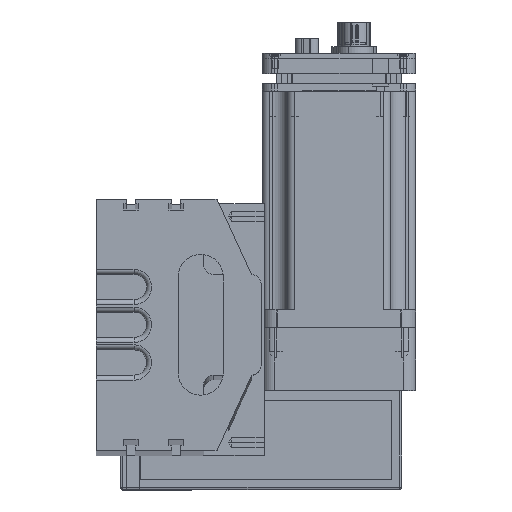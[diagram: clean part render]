
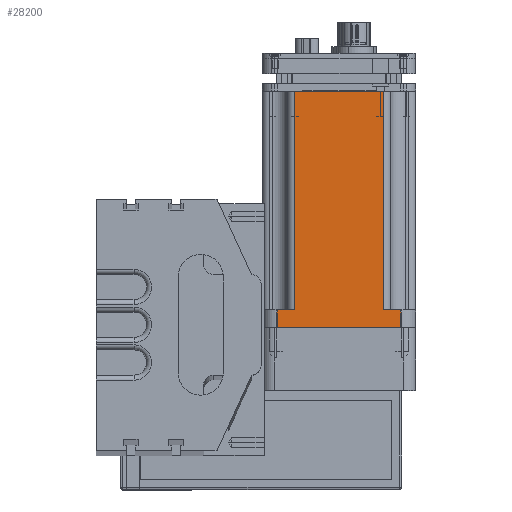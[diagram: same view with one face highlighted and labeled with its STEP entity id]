
A CAD part, top view. The second image highlights one B-rep face of the part: STEP entity #28200.
In plain terms, the highlighted planar face has unit normal (0, 0, 1).
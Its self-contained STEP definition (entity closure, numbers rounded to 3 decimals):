
#4890 = CARTESIAN_POINT ( 'NONE',  ( -17.5, 7., 30.5 ) ) ;
#4897 = DIRECTION ( 'NONE',  ( 1., 0., 0. ) ) ;
#4898 = VECTOR ( 'NONE', #4897, 1000. ) ;
#4899 = CARTESIAN_POINT ( 'NONE',  ( -24.5, 7., 30.5 ) ) ;
#4900 = LINE ( 'NONE', #4899, #4898 ) ;
#4928 = CARTESIAN_POINT ( 'NONE',  ( -24.5, 7., 30.5 ) ) ;
#4946 = CARTESIAN_POINT ( 'NONE',  ( -24.5, 0., 30.5 ) ) ;
#5287 = DIRECTION ( 'NONE',  ( 0., 1., 0. ) ) ;
#5288 = CARTESIAN_POINT ( 'NONE',  ( -24.5, 7., 30.5 ) ) ;
#5297 = LINE ( 'NONE', #5288, #5343 ) ;
#5343 = VECTOR ( 'NONE', #5287, 1000. ) ;
#5561 = CARTESIAN_POINT ( 'NONE',  ( -17.5, 94., 30.5 ) ) ;
#5566 = CARTESIAN_POINT ( 'NONE',  ( 24.5, 7., 30.5 ) ) ;
#5607 = FACE_OUTER_BOUND ( 'NONE', #28117, .T. ) ;
#5636 = CARTESIAN_POINT ( 'NONE',  ( 17.5, 7., 30.5 ) ) ;
#5638 = DIRECTION ( 'NONE',  ( -1., 0., 0. ) ) ;
#5639 = DIRECTION ( 'NONE',  ( 0., 0., -1. ) ) ;
#5640 = CARTESIAN_POINT ( 'NONE',  ( 17.5, 94., 30.5 ) ) ;
#5645 = AXIS2_PLACEMENT_3D ( 'NONE', #5651, #5639, #5638 ) ;
#5651 = CARTESIAN_POINT ( 'NONE',  ( -24.5, 7., 30.5 ) ) ;
#5652 = PLANE ( 'NONE',  #5645 ) ;
#5662 = LINE ( 'NONE', #5702, #5701 ) ;
#5671 = DIRECTION ( 'NONE',  ( 0., 1., 0. ) ) ;
#5672 = VECTOR ( 'NONE', #5671, 1000. ) ;
#5673 = CARTESIAN_POINT ( 'NONE',  ( -17.5, 7., 30.5 ) ) ;
#5674 = LINE ( 'NONE', #5673, #5672 ) ;
#5677 = DIRECTION ( 'NONE',  ( 1., 0., 0. ) ) ;
#5678 = VECTOR ( 'NONE', #5677, 1000. ) ;
#5679 = CARTESIAN_POINT ( 'NONE',  ( 26.5, 94., 30.5 ) ) ;
#5681 = LINE ( 'NONE', #5679, #5678 ) ;
#5684 = DIRECTION ( 'NONE',  ( 0., -1., 0. ) ) ;
#5685 = VECTOR ( 'NONE', #5684, 1000. ) ;
#5686 = CARTESIAN_POINT ( 'NONE',  ( 17.5, 95.35, 30.5 ) ) ;
#5687 = LINE ( 'NONE', #5686, #5685 ) ;
#5689 = DIRECTION ( 'NONE',  ( 1., 0., 0. ) ) ;
#5690 = VECTOR ( 'NONE', #5689, 1000. ) ;
#5691 = CARTESIAN_POINT ( 'NONE',  ( -24.5, 7., 30.5 ) ) ;
#5692 = LINE ( 'NONE', #5691, #5690 ) ;
#5693 = DIRECTION ( 'NONE',  ( 0., -1., 0. ) ) ;
#5694 = VECTOR ( 'NONE', #5693, 1000. ) ;
#5696 = CARTESIAN_POINT ( 'NONE',  ( 24.5, 7., 30.5 ) ) ;
#5697 = LINE ( 'NONE', #5696, #5694 ) ;
#5699 = CARTESIAN_POINT ( 'NONE',  ( 24.5, 0., 30.5 ) ) ;
#5700 = DIRECTION ( 'NONE',  ( 1., 0., 0. ) ) ;
#5701 = VECTOR ( 'NONE', #5700, 1000. ) ;
#5702 = CARTESIAN_POINT ( 'NONE',  ( -24.5, 0., 30.5 ) ) ;
#27273 = EDGE_CURVE ( 'NONE', #27313, #27290, #4900, .T. ) ;
#27290 = VERTEX_POINT ( 'NONE', #4890 ) ;
#27313 = VERTEX_POINT ( 'NONE', #4928 ) ;
#27661 = VERTEX_POINT ( 'NONE', #4946 ) ;
#27738 = EDGE_CURVE ( 'NONE', #27661, #27313, #5297, .T. ) ;
#28086 = VERTEX_POINT ( 'NONE', #5566 ) ;
#28087 = VERTEX_POINT ( 'NONE', #5561 ) ;
#28089 = ORIENTED_EDGE ( 'NONE', *, *, #27273, .F. ) ;
#28091 = ORIENTED_EDGE ( 'NONE', *, *, #28219, .F. ) ;
#28106 = ORIENTED_EDGE ( 'NONE', *, *, #28206, .T. ) ;
#28117 = EDGE_LOOP ( 'NONE', ( #28204, #28089, #28208, #28106, #28205, #28217, #28091, #28188 ) ) ;
#28188 = ORIENTED_EDGE ( 'NONE', *, *, #28222, .F. ) ;
#28200 = ADVANCED_FACE ( 'NONE', ( #5607 ), #5652, .F. ) ;
#28203 = VERTEX_POINT ( 'NONE', #5640 ) ;
#28204 = ORIENTED_EDGE ( 'NONE', *, *, #28224, .F. ) ;
#28205 = ORIENTED_EDGE ( 'NONE', *, *, #28210, .F. ) ;
#28206 = EDGE_CURVE ( 'NONE', #27661, #28209, #5662, .T. ) ;
#28208 = ORIENTED_EDGE ( 'NONE', *, *, #27738, .F. ) ;
#28209 = VERTEX_POINT ( 'NONE', #5699 ) ;
#28210 = EDGE_CURVE ( 'NONE', #28086, #28209, #5697, .T. ) ;
#28214 = EDGE_CURVE ( 'NONE', #28220, #28086, #5692, .T. ) ;
#28217 = ORIENTED_EDGE ( 'NONE', *, *, #28214, .F. ) ;
#28219 = EDGE_CURVE ( 'NONE', #28203, #28220, #5687, .T. ) ;
#28220 = VERTEX_POINT ( 'NONE', #5636 ) ;
#28222 = EDGE_CURVE ( 'NONE', #28087, #28203, #5681, .T. ) ;
#28224 = EDGE_CURVE ( 'NONE', #27290, #28087, #5674, .T. ) ;
